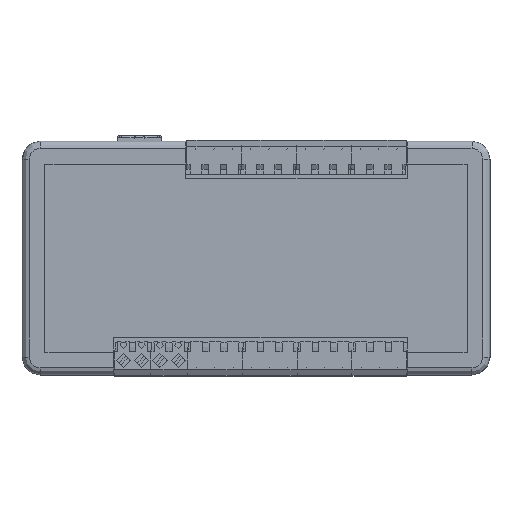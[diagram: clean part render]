
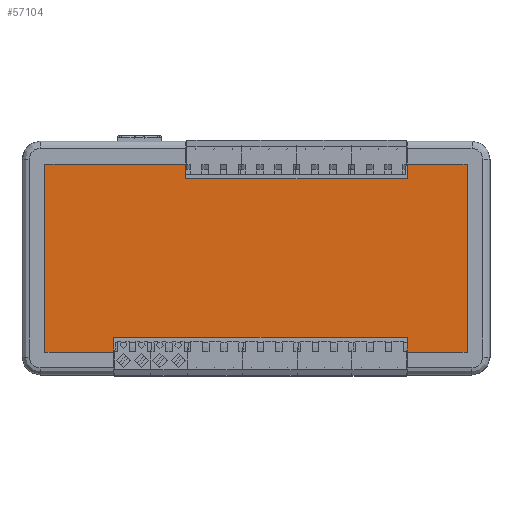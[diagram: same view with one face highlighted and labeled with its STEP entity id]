
A CAD part, top view. The second image highlights one B-rep face of the part: STEP entity #57104.
In plain terms, the highlighted planar face has unit normal (0, 0, 1) as drawn and (0, 0, -1) by its records, which use the part's own axes.
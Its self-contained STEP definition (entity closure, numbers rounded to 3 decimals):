
#2240 = DIRECTION ( 'NONE',  ( 0., -1., 0. ) ) ;
#3025 = DIRECTION ( 'NONE',  ( -1., 0., 0. ) ) ;
#3420 = DIRECTION ( 'NONE',  ( 1., 0., 0. ) ) ;
#5593 = VERTEX_POINT ( 'NONE', #101159 ) ;
#6935 = DIRECTION ( 'NONE',  ( 0., 1., 0. ) ) ;
#9514 = CARTESIAN_POINT ( 'NONE',  ( -58.625, 26.125, 1. ) ) ;
#12468 = CARTESIAN_POINT ( 'NONE',  ( -58.625, -26.125, 1. ) ) ;
#14906 = ORIENTED_EDGE ( 'NONE', *, *, #135185, .F. ) ;
#16313 = VERTEX_POINT ( 'NONE', #54234 ) ;
#20469 = CARTESIAN_POINT ( 'NONE',  ( 0., 0., 1. ) ) ;
#20644 = LINE ( 'NONE', #72770, #103594 ) ;
#22890 = FACE_OUTER_BOUND ( 'NONE', #103270, .T. ) ;
#24604 = CARTESIAN_POINT ( 'NONE',  ( -58.625, -26.125, 1. ) ) ;
#25557 = ORIENTED_EDGE ( 'NONE', *, *, #72629, .T. ) ;
#27445 = VERTEX_POINT ( 'NONE', #71857 ) ;
#30519 = EDGE_CURVE ( 'NONE', #40720, #63055, #45189, .T. ) ;
#31364 = DIRECTION ( 'NONE',  ( 1., 0., 0. ) ) ;
#31468 = LINE ( 'NONE', #97726, #85615 ) ;
#34185 = VERTEX_POINT ( 'NONE', #83716 ) ;
#34774 = ORIENTED_EDGE ( 'NONE', *, *, #132999, .T. ) ;
#37831 = ORIENTED_EDGE ( 'NONE', *, *, #97065, .T. ) ;
#39186 = EDGE_CURVE ( 'NONE', #77961, #98838, #87782, .T. ) ;
#39551 = ORIENTED_EDGE ( 'NONE', *, *, #97157, .T. ) ;
#40720 = VERTEX_POINT ( 'NONE', #45817 ) ;
#43812 = DIRECTION ( 'NONE',  ( 1., 0., 0. ) ) ;
#43931 = VECTOR ( 'NONE', #109438, 1000. ) ;
#44227 = LINE ( 'NONE', #68103, #95067 ) ;
#44528 = AXIS2_PLACEMENT_3D ( 'NONE', #20469, #96159, #31364 ) ;
#45189 = LINE ( 'NONE', #12468, #99343 ) ;
#45817 = CARTESIAN_POINT ( 'NONE',  ( 58.625, -26.125, 1. ) ) ;
#46314 = ORIENTED_EDGE ( 'NONE', *, *, #68721, .T. ) ;
#46372 = CARTESIAN_POINT ( 'NONE',  ( 42., 26.125, 1. ) ) ;
#46528 = VERTEX_POINT ( 'NONE', #82399 ) ;
#50493 = VECTOR ( 'NONE', #2240, 1000. ) ;
#52097 = VECTOR ( 'NONE', #6935, 1000. ) ;
#54234 = CARTESIAN_POINT ( 'NONE',  ( -58.625, -26.125, 1. ) ) ;
#57104 = ADVANCED_FACE ( 'NONE', ( #22890 ), #85296, .F. ) ;
#57135 = VECTOR ( 'NONE', #65543, 1000. ) ;
#58997 = VECTOR ( 'NONE', #106916, 1000. ) ;
#61528 = CARTESIAN_POINT ( 'NONE',  ( -19.5, -22., 1. ) ) ;
#63055 = VERTEX_POINT ( 'NONE', #111480 ) ;
#63860 = LINE ( 'NONE', #80221, #118077 ) ;
#65252 = ORIENTED_EDGE ( 'NONE', *, *, #111635, .T. ) ;
#65543 = DIRECTION ( 'NONE',  ( 0., 1., 0. ) ) ;
#68103 = CARTESIAN_POINT ( 'NONE',  ( -58.625, 26.125, 1. ) ) ;
#68721 = EDGE_CURVE ( 'NONE', #46528, #16313, #107481, .T. ) ;
#68731 = VERTEX_POINT ( 'NONE', #46372 ) ;
#71857 = CARTESIAN_POINT ( 'NONE',  ( -39.5, 22., 1. ) ) ;
#72629 = EDGE_CURVE ( 'NONE', #98838, #27445, #20644, .T. ) ;
#72770 = CARTESIAN_POINT ( 'NONE',  ( -39.5, 0., 1. ) ) ;
#72962 = EDGE_CURVE ( 'NONE', #68731, #34185, #44227, .T. ) ;
#73172 = ORIENTED_EDGE ( 'NONE', *, *, #99210, .T. ) ;
#73982 = ORIENTED_EDGE ( 'NONE', *, *, #72962, .T. ) ;
#74334 = CARTESIAN_POINT ( 'NONE',  ( -58.625, 26.125, 1. ) ) ;
#75756 = EDGE_CURVE ( 'NONE', #63055, #79975, #85962, .T. ) ;
#77785 = CARTESIAN_POINT ( 'NONE',  ( 58.625, 26.125, 1. ) ) ;
#77961 = VERTEX_POINT ( 'NONE', #9514 ) ;
#79975 = VERTEX_POINT ( 'NONE', #119973 ) ;
#80221 = CARTESIAN_POINT ( 'NONE',  ( 0., 22., 1. ) ) ;
#80427 = ORIENTED_EDGE ( 'NONE', *, *, #39186, .T. ) ;
#82399 = CARTESIAN_POINT ( 'NONE',  ( -19.5, -26.125, 1. ) ) ;
#83716 = CARTESIAN_POINT ( 'NONE',  ( 58.625, 26.125, 1. ) ) ;
#85296 = PLANE ( 'NONE',  #44528 ) ;
#85615 = VECTOR ( 'NONE', #43812, 1000. ) ;
#85962 = LINE ( 'NONE', #108639, #57135 ) ;
#87782 = LINE ( 'NONE', #74334, #58997 ) ;
#87960 = ORIENTED_EDGE ( 'NONE', *, *, #30519, .T. ) ;
#91091 = DIRECTION ( 'NONE',  ( 1., 0., 0. ) ) ;
#95067 = VECTOR ( 'NONE', #3420, 1000. ) ;
#96159 = DIRECTION ( 'NONE',  ( 0., 0., 1. ) ) ;
#97065 = EDGE_CURVE ( 'NONE', #34185, #40720, #108000, .T. ) ;
#97157 = EDGE_CURVE ( 'NONE', #16313, #77961, #138507, .T. ) ;
#97726 = CARTESIAN_POINT ( 'NONE',  ( 0., -22., 1. ) ) ;
#98487 = CARTESIAN_POINT ( 'NONE',  ( 42., 0., 1. ) ) ;
#98838 = VERTEX_POINT ( 'NONE', #113736 ) ;
#98914 = DIRECTION ( 'NONE',  ( -1., 0., 0. ) ) ;
#99210 = EDGE_CURVE ( 'NONE', #131710, #46528, #110893, .T. ) ;
#99343 = VECTOR ( 'NONE', #98914, 1000. ) ;
#101159 = CARTESIAN_POINT ( 'NONE',  ( 42., 22., 1. ) ) ;
#103270 = EDGE_LOOP ( 'NONE', ( #14906, #73172, #46314, #39551, #80427, #25557, #34774, #65252, #73982, #37831, #87960, #140027 ) ) ;
#103594 = VECTOR ( 'NONE', #105324, 1000. ) ;
#105324 = DIRECTION ( 'NONE',  ( 0., -1., 0. ) ) ;
#106916 = DIRECTION ( 'NONE',  ( 1., 0., 0. ) ) ;
#107437 = CARTESIAN_POINT ( 'NONE',  ( -19.5, 0., 1. ) ) ;
#107481 = LINE ( 'NONE', #24604, #136389 ) ;
#108000 = LINE ( 'NONE', #77785, #50493 ) ;
#108639 = CARTESIAN_POINT ( 'NONE',  ( 42., 0., 1. ) ) ;
#109438 = DIRECTION ( 'NONE',  ( 0., 1., 0. ) ) ;
#110893 = LINE ( 'NONE', #107437, #129480 ) ;
#111480 = CARTESIAN_POINT ( 'NONE',  ( 42., -26.125, 1. ) ) ;
#111635 = EDGE_CURVE ( 'NONE', #5593, #68731, #130316, .T. ) ;
#113736 = CARTESIAN_POINT ( 'NONE',  ( -39.5, 26.125, 1. ) ) ;
#118077 = VECTOR ( 'NONE', #91091, 1000. ) ;
#118383 = DIRECTION ( 'NONE',  ( 0., -1., 0. ) ) ;
#119973 = CARTESIAN_POINT ( 'NONE',  ( 42., -22., 1. ) ) ;
#129480 = VECTOR ( 'NONE', #118383, 1000. ) ;
#130316 = LINE ( 'NONE', #98487, #43931 ) ;
#131710 = VERTEX_POINT ( 'NONE', #61528 ) ;
#132999 = EDGE_CURVE ( 'NONE', #27445, #5593, #63860, .T. ) ;
#135185 = EDGE_CURVE ( 'NONE', #131710, #79975, #31468, .T. ) ;
#136389 = VECTOR ( 'NONE', #3025, 1000. ) ;
#136479 = CARTESIAN_POINT ( 'NONE',  ( -58.625, 26.125, 1. ) ) ;
#138507 = LINE ( 'NONE', #136479, #52097 ) ;
#140027 = ORIENTED_EDGE ( 'NONE', *, *, #75756, .T. ) ;
